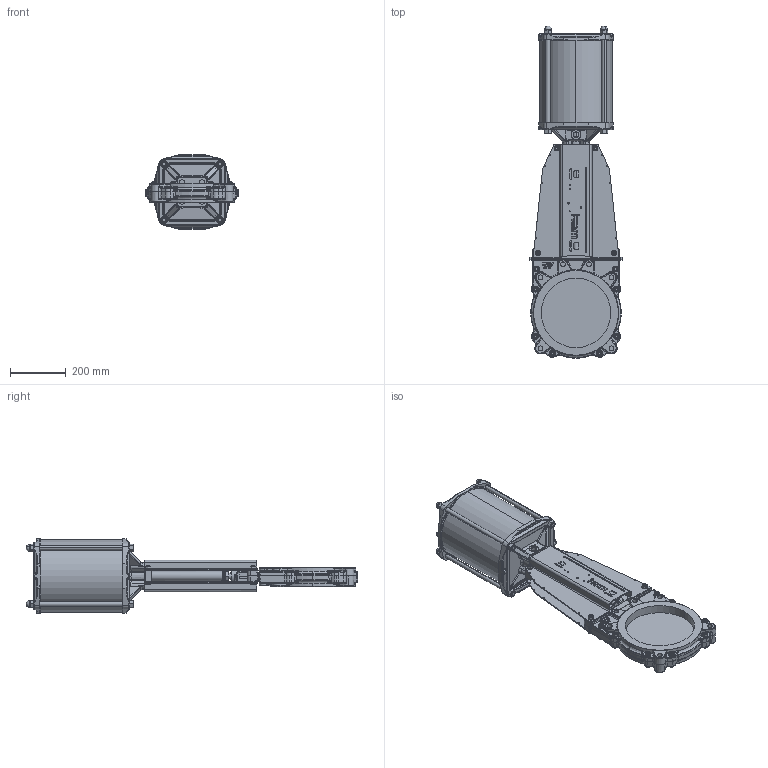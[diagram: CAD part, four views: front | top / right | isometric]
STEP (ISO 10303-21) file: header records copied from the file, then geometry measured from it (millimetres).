
FILE_DESCRIPTION (( 'STEP AP214' ), '1' );
FILE_NAME ('VSC DN 0250 Zyl.-Reihe 2.STEP', '2015-09-23T11:09:59', ( 'admin' ), ( 'Hewlett-Packard Company' ), 'SwSTEP 2.0', 'SolidWorks 2013', '' );
FILE_SCHEMA (( 'AUTOMOTIVE_DESIGN' ));
Length unit declared in the file: millimetre
Products named in the file (1): VSC DN 0250 Zyl.-Reihe 2
Bounding box: 332 x 1195.57 x 270 mm (x, y, z)
Volume: 10733666.2 mm3; surface area: 2042728.8 mm2
Topology: 79 solids, 82 shells, 4134 faces, 9842 edges, 5756 vertices
Faces by surface type: plane 1210, cylinder 1072, cone 794, bspline 766, torus 228, sphere 64
Entity records: 193977 total; most frequent: CARTESIAN_POINT 58887, ORIENTED_EDGE 19244, DIRECTION 17559, EDGE_CURVE 9622, AXIS2_PLACEMENT_3D 7067, VERTEX_POINT 5748, EDGE_LOOP 4498, UNCERTAINTY_MEASURE_WITH_UNIT 4215
